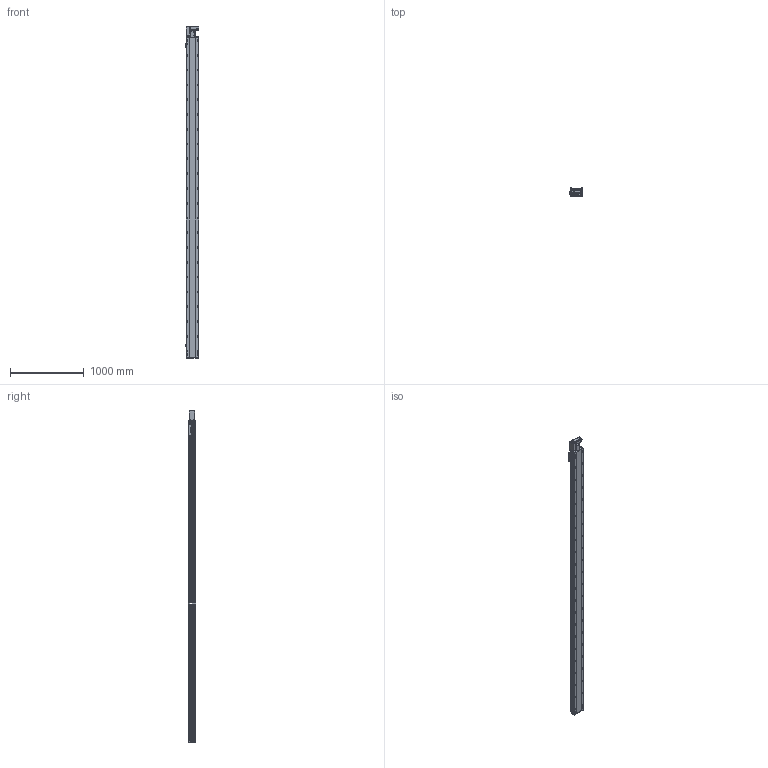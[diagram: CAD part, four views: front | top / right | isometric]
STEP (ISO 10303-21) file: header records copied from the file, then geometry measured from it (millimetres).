
FILE_DESCRIPTION (( 'STEP AP214' ), '1' );
FILE_NAME ('RTB17S-XX-4050-L-M40-C4.STEP', '2025-12-11T06:12:46', ( '' ), ( '' ), 'SwSTEP 2.0', 'SolidWorks 2018', '' );
FILE_SCHEMA (( 'AUTOMOTIVE_DESIGN' ));
Length unit declared in the file: millimetre
Products named in the file (14): OMRON EE-SX672 传感器^RTB17S-XX-XX-L-M40-C4; RTB17-R-011菁釱^RTB17S-XX-XX-L-M40-C4; RTB14-L-017P^RTB17S-L-々湍釱蚾饜-400W_RTB17S-XX-XX-L-M40-C4; RTB17S-XX-4050-L-M40-C4; RTB14-L-018P^RTB17S-L-々湍釱蚾饜-400W_RTB17S-XX-XX-L-M40-C4; RTB17S-L-007奻裔^RTB17S-XX-XX-L-M40-C4; RTB14-L-008-M20--萇儂啣^RTB17S-L-々湍釱蚾饜-400W_RTB17S-XX-XX-L-M40-C4; RTB17S-L-004佪裝蹟譫蟀諉釱^RTB17S-XX-XX-L-M40-C4; 400W侜督萇儂^RTB17S-XX-XX-L-M40-C4; RTB17S-L-々湍釱蚾饜-400W^RTB17S-XX-XX-L-M40-C4; RTB14-L-005P--轴承塑胶压盖^RTB17S-L-皮带座装配-400W_RTB17S-XX-XX-L-M40-C4; RMP17S-L-014-T20--々湍釱^RTB17S-L-々湍釱蚾饜-400W_RTB17S-XX-XX-L-M40-C4; RTH13-BL-012覜茼え俋离^RTB17S-XX-XX-L-M40-C4; RTB17S-L-001耜醱啣^RTB17S-XX-XX-L-M40-C4
Assembly tree (16 placements, depth 3):
  RTB17S-XX-4050-L-M40-C4
    RTB17-R-011菁釱^RTB17S-XX-XX-L-M40-C4
    RTB17S-L-007奻裔^RTB17S-XX-XX-L-M40-C4
    OMRON EE-SX672 传感器^RTB17S-XX-XX-L-M40-C4  x3
    RTB17S-L-001耜醱啣^RTB17S-XX-XX-L-M40-C4
    400W侜督萇儂^RTB17S-XX-XX-L-M40-C4
    RTB17S-L-004佪裝蹟譫蟀諉釱^RTB17S-XX-XX-L-M40-C4
    RTH13-BL-012覜茼え俋离^RTB17S-XX-XX-L-M40-C4
    RTB17S-L-々湍釱蚾饜-400W^RTB17S-XX-XX-L-M40-C4
      RMP17S-L-014-T20--々湍釱^RTB17S-L-々湍釱蚾饜-400W_RTB17S-XX-XX-L-M40-C4
      RTB14-L-005P--轴承塑胶压盖^RTB17S-L-皮带座装配-400W_RTB17S-XX-XX-L-M40-C4
      RTB14-L-008-M20--萇儂啣^RTB17S-L-々湍釱蚾饜-400W_RTB17S-XX-XX-L-M40-C4
      RTB14-L-017P^RTB17S-L-々湍釱蚾饜-400W_RTB17S-XX-XX-L-M40-C4  x2
      RTB14-L-018P^RTB17S-L-々湍釱蚾饜-400W_RTB17S-XX-XX-L-M40-C4
Bounding box: 186 x 108 x 4491 mm (x, y, z)
Volume: 37241582.1 mm3; surface area: 4212202.2 mm2
Topology: 15 solids, 15 shells, 2461 faces, 6951 edges, 4545 vertices
Faces by surface type: plane 1100, cylinder 913, bspline 301, cone 139, torus 8
Entity records: 74921 total; most frequent: CARTESIAN_POINT 21556, ORIENTED_EDGE 10746, DIRECTION 9836, EDGE_CURVE 5373, VERTEX_POINT 3533, AXIS2_PLACEMENT_3D 3463, LINE 2910, VECTOR 2910
